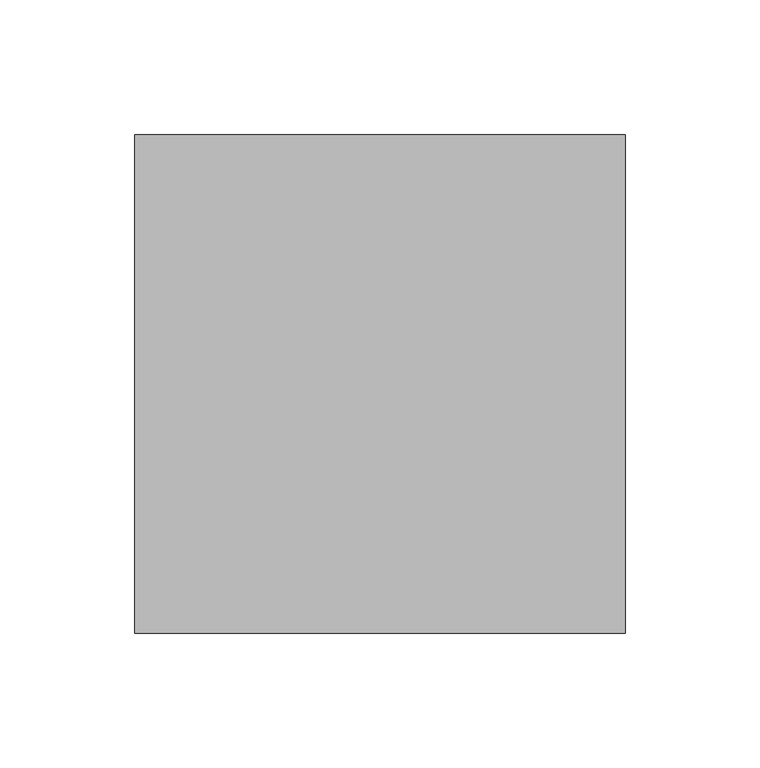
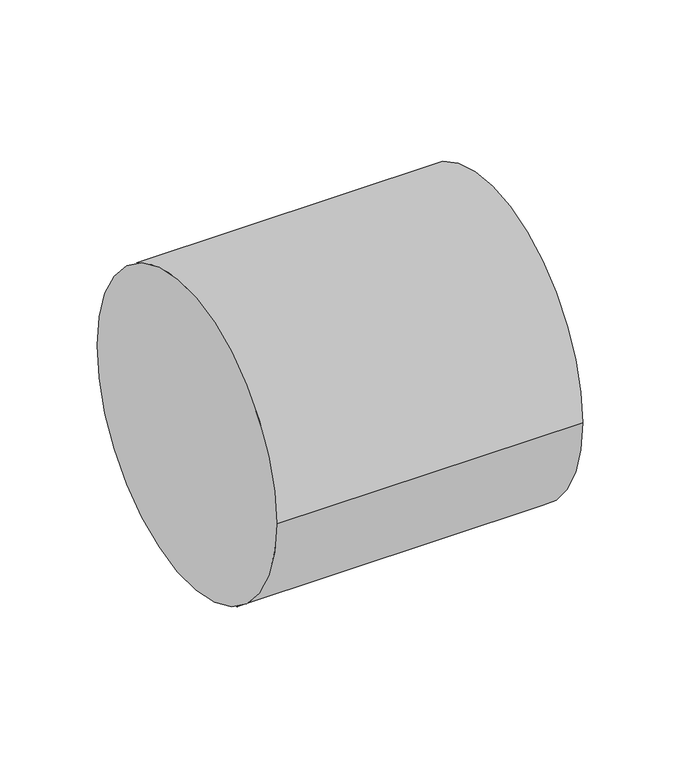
"""IFC4 building model written with IfcOpenShell, lengths in millimetres: pipe fitting geometry, 01051005 : Manchons égaux."""

from ifc_helpers import new_model, si_unit, point, frame, origin, origin_2d, place, context, project, spatial, circle_curve, trimmed, segment, composite_curve, outline, extrude, source, transform, mapped, element, save


def pipe_fitting_b306d7a5(model_context):
    return source(origin(), model_context, "Body", "SweptSolid", [
        extrude(outline(composite_curve([segment(trimmed(circle_curve(origin_2d(), 92.5), [point((-92.5, 0.0))], [point((92.5, 0.0))], False, "CARTESIAN"), True, "CONTINUOUS"), segment(trimmed(circle_curve(origin_2d(), 92.5), [point((92.5, 0.0))], [point((-92.5, 0.0))], False, "CARTESIAN"), True, "CONTINUOUS")], self_intersect=False)), frame((-91.0, 0.0, 0.0), z_axis=(1.0, 0.0, 0.0), x_axis=(0.0, 1.0, 0.0)), (0.0, 0.0, 1.0), 182.0),
    ])


if __name__ == "__main__":
    model = new_model("IFC4")
    model_context = context("Model", 3, world=origin())
    ifc_project = project(units=[si_unit("LENGTHUNIT", "METRE", prefix="MILLI")], contexts=[model_context])
    site = spatial("IfcSite", under=ifc_project)
    building = spatial("IfcBuilding", under=site)
    placement = place(None, origin())
    pipe_fitting_shape = pipe_fitting_b306d7a5(model_context)
    element("IfcPipeFitting", 1, ObjectType="01051005 : Manchons égaux", at=placement, inside=building, context=model_context, shape_type="MappedRepresentation", body=[
        mapped(pipe_fitting_shape, transform((0.0, 0.0, 0.0), x_axis=(1.0, 0.0, 0.0), y_axis=(0.0, 1.0, 0.0), z_axis=(0.0, 0.0, 1.0))),
    ])
    save(model, "model.ifc")
